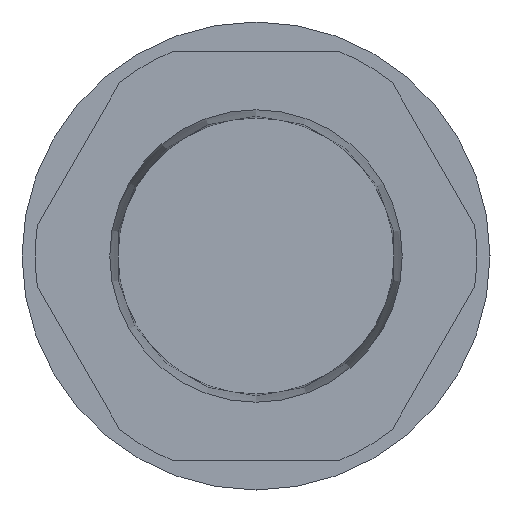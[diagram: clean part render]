
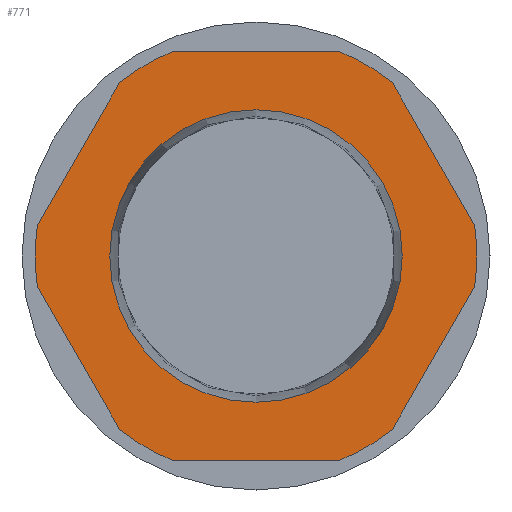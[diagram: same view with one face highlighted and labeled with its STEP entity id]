
A CAD part, left-side view. The second image highlights one B-rep face of the part: STEP entity #771.
In plain terms, the highlighted planar face has unit normal (-1, 0, 0).
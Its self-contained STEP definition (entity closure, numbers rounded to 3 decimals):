
#84=CARTESIAN_POINT('',(-20.25,0.,5.0));
#85=VERTEX_POINT('',#84);
#86=CARTESIAN_POINT('',(-20.25,0.0,0.0));
#87=DIRECTION('',(1.0,0.0,0.0));
#88=DIRECTION('',(0.0,0.0,-1.0));
#89=AXIS2_PLACEMENT_3D('',#86,#87,#88);
#90=CIRCLE('',#89,5.0);
#91=EDGE_CURVE('',#85,#85,#90,.T.);
#460=CARTESIAN_POINT('',(-20.25,2.829,7.));
#461=VERTEX_POINT('',#460);
#469=CARTESIAN_POINT('',(-20.25,4.648,5.95));
#470=VERTEX_POINT('',#469);
#477=CARTESIAN_POINT('',(-20.25,0.0,0.0));
#478=DIRECTION('',(1.0,0.0,0.0));
#479=DIRECTION('',(0.0,-1.0,0.0));
#480=AXIS2_PLACEMENT_3D('',#477,#478,#479);
#481=CIRCLE('',#480,7.55);
#482=EDGE_CURVE('',#470,#461,#481,.T.);
#492=CARTESIAN_POINT('',(-20.25,-4.648,5.95));
#493=VERTEX_POINT('',#492);
#501=CARTESIAN_POINT('',(-20.25,-2.829,7.));
#502=VERTEX_POINT('',#501);
#509=CARTESIAN_POINT('',(-20.25,0.0,0.0));
#510=DIRECTION('',(1.0,0.0,0.0));
#511=DIRECTION('',(0.0,-1.0,0.0));
#512=AXIS2_PLACEMENT_3D('',#509,#510,#511);
#513=CIRCLE('',#512,7.55);
#514=EDGE_CURVE('',#502,#493,#513,.T.);
#524=CARTESIAN_POINT('',(-20.25,7.477,-1.05));
#525=VERTEX_POINT('',#524);
#532=CARTESIAN_POINT('',(-20.25,7.477,1.05));
#533=VERTEX_POINT('',#532);
#534=CARTESIAN_POINT('',(-20.25,0.0,0.0));
#535=DIRECTION('',(1.0,0.0,0.0));
#536=DIRECTION('',(0.0,-1.0,0.0));
#537=AXIS2_PLACEMENT_3D('',#534,#535,#536);
#538=CIRCLE('',#537,7.55);
#539=EDGE_CURVE('',#525,#533,#538,.T.);
#556=CARTESIAN_POINT('',(-20.25,-7.477,-1.05));
#557=VERTEX_POINT('',#556);
#565=CARTESIAN_POINT('',(-20.25,-7.477,1.05));
#566=VERTEX_POINT('',#565);
#573=CARTESIAN_POINT('',(-20.25,0.0,0.0));
#574=DIRECTION('',(1.0,0.0,0.0));
#575=DIRECTION('',(0.0,-1.0,0.0));
#576=AXIS2_PLACEMENT_3D('',#573,#574,#575);
#577=CIRCLE('',#576,7.55);
#578=EDGE_CURVE('',#566,#557,#577,.T.);
#588=CARTESIAN_POINT('',(-20.25,2.829,-7.));
#589=VERTEX_POINT('',#588);
#596=CARTESIAN_POINT('',(-20.25,4.648,-5.95));
#597=VERTEX_POINT('',#596);
#598=CARTESIAN_POINT('',(-20.25,0.0,0.0));
#599=DIRECTION('',(1.0,0.0,0.0));
#600=DIRECTION('',(0.0,-1.0,0.0));
#601=AXIS2_PLACEMENT_3D('',#598,#599,#600);
#602=CIRCLE('',#601,7.55);
#603=EDGE_CURVE('',#589,#597,#602,.T.);
#620=CARTESIAN_POINT('',(-20.25,-2.829,-7.));
#621=VERTEX_POINT('',#620);
#629=CARTESIAN_POINT('',(-20.25,-4.648,-5.95));
#630=VERTEX_POINT('',#629);
#637=CARTESIAN_POINT('',(-20.25,0.0,0.0));
#638=DIRECTION('',(1.0,0.0,0.0));
#639=DIRECTION('',(0.0,-1.0,0.0));
#640=AXIS2_PLACEMENT_3D('',#637,#638,#639);
#641=CIRCLE('',#640,7.55);
#642=EDGE_CURVE('',#630,#621,#641,.T.);
#653=CARTESIAN_POINT('',(-20.25,-2.829,-7.));
#654=DIRECTION('',(0.0,1.0,0.0));
#655=VECTOR('',#654,5.658);
#656=LINE('',#653,#655);
#657=EDGE_CURVE('',#621,#589,#656,.T.);
#672=CARTESIAN_POINT('',(-20.25,-7.477,-1.05));
#673=DIRECTION('',(0.0,0.5,-0.866));
#674=VECTOR('',#673,5.658);
#675=LINE('',#672,#674);
#676=EDGE_CURVE('',#557,#630,#675,.T.);
#687=CARTESIAN_POINT('',(-20.25,4.648,-5.95));
#688=DIRECTION('',(0.0,0.5,0.866));
#689=VECTOR('',#688,5.658);
#690=LINE('',#687,#689);
#691=EDGE_CURVE('',#597,#525,#690,.T.);
#706=CARTESIAN_POINT('',(-20.25,-4.648,5.95));
#707=DIRECTION('',(0.0,-0.5,-0.866));
#708=VECTOR('',#707,5.658);
#709=LINE('',#706,#708);
#710=EDGE_CURVE('',#493,#566,#709,.T.);
#723=CARTESIAN_POINT('',(-20.25,2.829,7.));
#724=DIRECTION('',(0.0,-1.0,0.0));
#725=VECTOR('',#724,5.658);
#726=LINE('',#723,#725);
#727=EDGE_CURVE('',#461,#502,#726,.T.);
#738=CARTESIAN_POINT('',(-20.25,7.477,1.05));
#739=DIRECTION('',(0.0,-0.5,0.866));
#740=VECTOR('',#739,5.658);
#741=LINE('',#738,#740);
#742=EDGE_CURVE('',#533,#470,#741,.T.);
#749=CARTESIAN_POINT('',(-20.25,0.,0.));
#750=DIRECTION('',(1.0,0.0,0.0));
#751=DIRECTION('',(0.0,0.0,-1.0));
#752=AXIS2_PLACEMENT_3D('',#749,#750,#751);
#753=PLANE('',#752);
#754=ORIENTED_EDGE('',*,*,#642,.F.);
#755=ORIENTED_EDGE('',*,*,#676,.F.);
#756=ORIENTED_EDGE('',*,*,#578,.F.);
#757=ORIENTED_EDGE('',*,*,#710,.F.);
#758=ORIENTED_EDGE('',*,*,#514,.F.);
#759=ORIENTED_EDGE('',*,*,#727,.F.);
#760=ORIENTED_EDGE('',*,*,#482,.F.);
#761=ORIENTED_EDGE('',*,*,#742,.F.);
#762=ORIENTED_EDGE('',*,*,#539,.F.);
#763=ORIENTED_EDGE('',*,*,#691,.F.);
#764=ORIENTED_EDGE('',*,*,#603,.F.);
#765=ORIENTED_EDGE('',*,*,#657,.F.);
#766=EDGE_LOOP('',(#754,#755,#756,#757,#758,#759,#760,#761,#762,#763,#764,#765));
#767=FACE_OUTER_BOUND('',#766,.T.);
#768=ORIENTED_EDGE('',*,*,#91,.T.);
#769=EDGE_LOOP('',(#768));
#770=FACE_BOUND('',#769,.T.);
#771=ADVANCED_FACE('',(#767,#770),#753,.F.);
